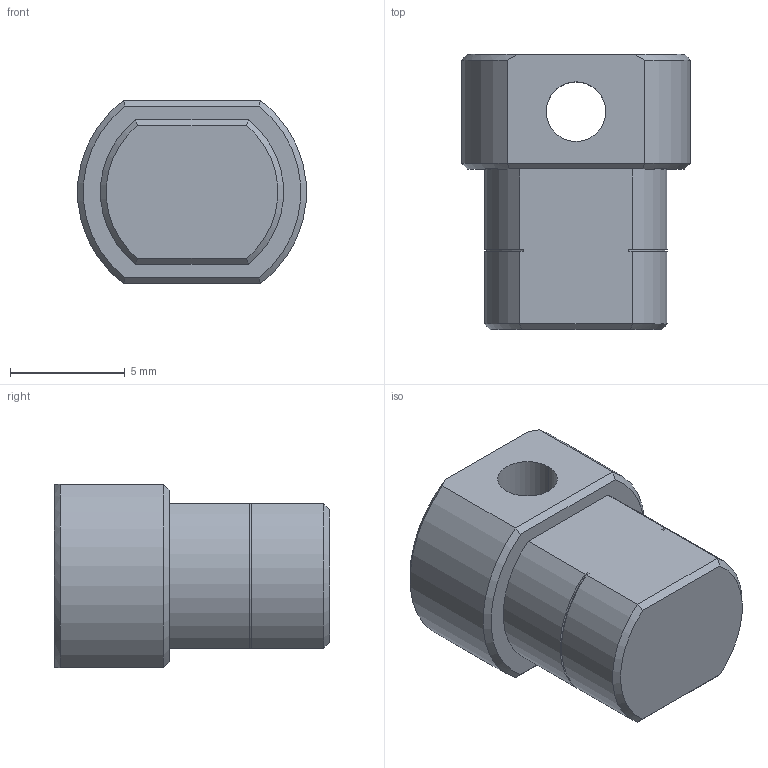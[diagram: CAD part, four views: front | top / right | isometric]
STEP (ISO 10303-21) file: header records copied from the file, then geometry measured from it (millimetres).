
FILE_DESCRIPTION (( 'STEP AP203' ), '1' );
FILE_NAME ('XG11-001-6.STEP', '2025-06-17T09:16:13', ( '微软用户' ), ( '微软中国' ), 'SwSTEP 2.0', 'SolidWorks 2024', '' );
FILE_SCHEMA (( 'CONFIG_CONTROL_DESIGN' ));
Length unit declared in the file: millimetre
Products named in the file (1): XG11-001-6
Bounding box: 9.96 x 12 x 8 mm (x, y, z)
Volume: 618.8 mm3; surface area: 510.5 mm2
Topology: 1 solids, 1 shells, 31 faces, 76 edges, 48 vertices
Faces by surface type: plane 15, cylinder 10, cone 6
Entity records: 1005 total; most frequent: CARTESIAN_POINT 192, DIRECTION 154, ORIENTED_EDGE 152, EDGE_CURVE 76, AXIS2_PLACEMENT_3D 58, VERTEX_POINT 48, LINE 38, VECTOR 38
